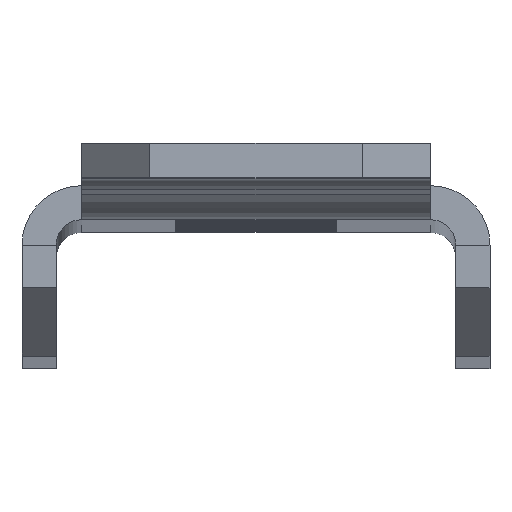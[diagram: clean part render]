
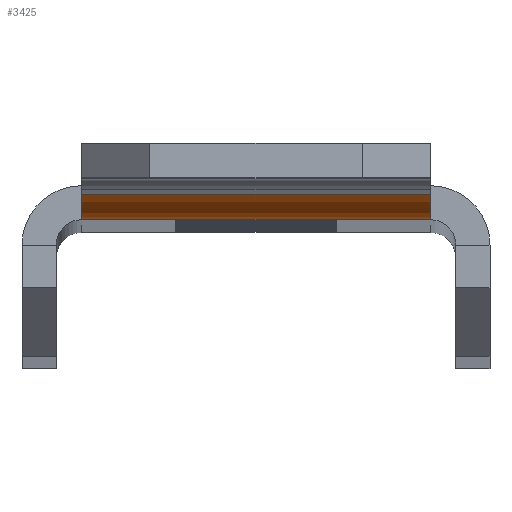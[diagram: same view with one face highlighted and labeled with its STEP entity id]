
A CAD part, top view. The second image highlights one B-rep face of the part: STEP entity #3425.
In plain terms, the highlighted cylindrical face has radius 3.5 mm (diameter 7 mm), a partial arc.
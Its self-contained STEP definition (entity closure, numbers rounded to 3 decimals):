
#341 = CIRCLE ( 'NONE', #573, 3.5 ) ;
#468 = EDGE_CURVE ( 'NONE', #3168, #5138, #3937, .T. ) ;
#573 = AXIS2_PLACEMENT_3D ( 'NONE', #794, #814, #4187 ) ;
#682 = EDGE_CURVE ( 'NONE', #3168, #4400, #341, .T. ) ;
#794 = CARTESIAN_POINT ( 'NONE',  ( 10.25, 1.5, 214.678 ) ) ;
#814 = DIRECTION ( 'NONE',  ( 1., 0., 0. ) ) ;
#842 = CARTESIAN_POINT ( 'NONE',  ( 10.25, -2., 214.678 ) ) ;
#871 = ORIENTED_EDGE ( 'NONE', *, *, #682, .F. ) ;
#980 = DIRECTION ( 'NONE',  ( -1., 0., 0. ) ) ;
#1182 = CYLINDRICAL_SURFACE ( 'NONE', #1721, 3.5 ) ;
#1326 = CARTESIAN_POINT ( 'NONE',  ( -10.25, -2., 214.678 ) ) ;
#1435 = VERTEX_POINT ( 'NONE', #1326 ) ;
#1618 = DIRECTION ( 'NONE',  ( -1., 0., 0. ) ) ;
#1721 = AXIS2_PLACEMENT_3D ( 'NONE', #4429, #4845, #4371 ) ;
#1787 = LINE ( 'NONE', #4512, #1925 ) ;
#1925 = VECTOR ( 'NONE', #2340, 1000. ) ;
#1944 = FACE_OUTER_BOUND ( 'NONE', #4181, .T. ) ;
#1962 = ORIENTED_EDGE ( 'NONE', *, *, #2532, .F. ) ;
#2225 = DIRECTION ( 'NONE',  ( 0., 0., -1. ) ) ;
#2340 = DIRECTION ( 'NONE',  ( -1., 0., 0. ) ) ;
#2532 = EDGE_CURVE ( 'NONE', #1435, #5138, #2910, .T. ) ;
#2575 = AXIS2_PLACEMENT_3D ( 'NONE', #3580, #980, #2225 ) ;
#2910 = CIRCLE ( 'NONE', #2575, 3.5 ) ;
#3168 = VERTEX_POINT ( 'NONE', #5360 ) ;
#3425 = ADVANCED_FACE ( 'NONE', ( #1944 ), #1182, .T. ) ;
#3580 = CARTESIAN_POINT ( 'NONE',  ( -10.25, 1.5, 214.678 ) ) ;
#3724 = CARTESIAN_POINT ( 'NONE',  ( -10.25, -0.508, 217.545 ) ) ;
#3937 = LINE ( 'NONE', #5067, #5357 ) ;
#4181 = EDGE_LOOP ( 'NONE', ( #4573, #871, #5136, #1962 ) ) ;
#4187 = DIRECTION ( 'NONE',  ( 0., 0., -1. ) ) ;
#4371 = DIRECTION ( 'NONE',  ( 0., -0.574, 0.819 ) ) ;
#4400 = VERTEX_POINT ( 'NONE', #842 ) ;
#4429 = CARTESIAN_POINT ( 'NONE',  ( 10.25, 1.5, 214.678 ) ) ;
#4512 = CARTESIAN_POINT ( 'NONE',  ( 10.25, -2., 214.678 ) ) ;
#4573 = ORIENTED_EDGE ( 'NONE', *, *, #4891, .F. ) ;
#4845 = DIRECTION ( 'NONE',  ( 1., 0., 0. ) ) ;
#4891 = EDGE_CURVE ( 'NONE', #4400, #1435, #1787, .T. ) ;
#5067 = CARTESIAN_POINT ( 'NONE',  ( -10.25, -0.508, 217.545 ) ) ;
#5136 = ORIENTED_EDGE ( 'NONE', *, *, #468, .T. ) ;
#5138 = VERTEX_POINT ( 'NONE', #3724 ) ;
#5357 = VECTOR ( 'NONE', #1618, 1000. ) ;
#5360 = CARTESIAN_POINT ( 'NONE',  ( 10.25, -0.508, 217.545 ) ) ;
